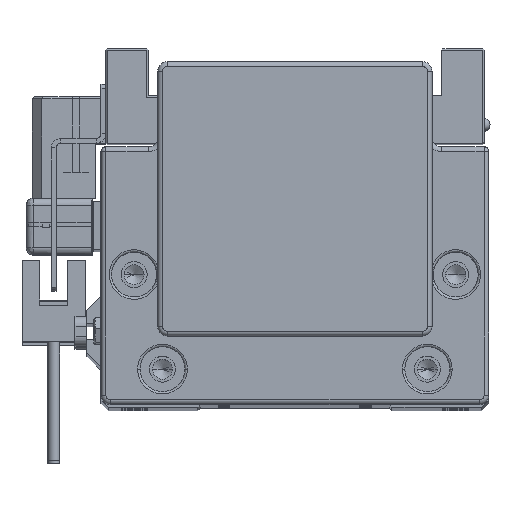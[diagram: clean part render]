
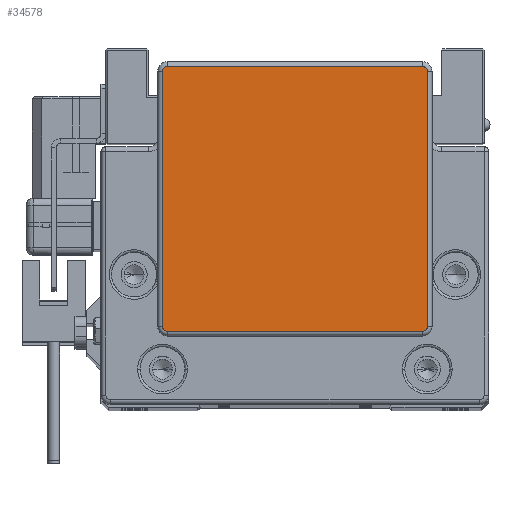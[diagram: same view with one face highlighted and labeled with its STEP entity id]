
A CAD part, top view. The second image highlights one B-rep face of the part: STEP entity #34578.
In plain terms, the highlighted planar face has unit normal (0, 0, 1).
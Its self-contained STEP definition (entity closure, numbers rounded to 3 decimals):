
#442 = DIRECTION ( 'NONE',  ( 0., 0., 1. ) ) ;
#677 = CARTESIAN_POINT ( 'NONE',  ( 27., 34.25, 17. ) ) ;
#1487 = VECTOR ( 'NONE', #9141, 1000. ) ;
#2427 = VERTEX_POINT ( 'NONE', #45824 ) ;
#2790 = CARTESIAN_POINT ( 'NONE',  ( 28., 34.25, 17. ) ) ;
#3341 = DIRECTION ( 'NONE',  ( 0., 0., 1. ) ) ;
#3385 = ORIENTED_EDGE ( 'NONE', *, *, #45708, .T. ) ;
#3447 = ORIENTED_EDGE ( 'NONE', *, *, #4761, .T. ) ;
#4103 = AXIS2_PLACEMENT_3D ( 'NONE', #677, #442, #33195 ) ;
#4761 = EDGE_CURVE ( 'NONE', #43453, #30639, #12379, .T. ) ;
#5309 = CARTESIAN_POINT ( 'NONE',  ( 27., -19.75, 17. ) ) ;
#6490 = CARTESIAN_POINT ( 'NONE',  ( 28., 34.25, 17. ) ) ;
#6519 = EDGE_CURVE ( 'NONE', #2427, #26488, #21567, .T. ) ;
#6788 = EDGE_LOOP ( 'NONE', ( #38233, #38056, #9147, #14247, #3385, #16406, #18810, #3447 ) ) ;
#7057 = VERTEX_POINT ( 'NONE', #35423 ) ;
#7211 = DIRECTION ( 'NONE',  ( 1., 0., 0. ) ) ;
#7368 = LINE ( 'NONE', #36145, #22143 ) ;
#7982 = CARTESIAN_POINT ( 'NONE',  ( -28., -19.75, 17. ) ) ;
#9141 = DIRECTION ( 'NONE',  ( 0., -1., 0. ) ) ;
#9147 = ORIENTED_EDGE ( 'NONE', *, *, #42140, .T. ) ;
#9565 = DIRECTION ( 'NONE',  ( 0., 1., 0. ) ) ;
#12047 = CARTESIAN_POINT ( 'NONE',  ( 27., -20.75, 17. ) ) ;
#12379 = CIRCLE ( 'NONE', #4103, 1. ) ;
#13020 = VERTEX_POINT ( 'NONE', #30434 ) ;
#13071 = CIRCLE ( 'NONE', #17597, 1. ) ;
#14190 = PLANE ( 'NONE',  #45431 ) ;
#14247 = ORIENTED_EDGE ( 'NONE', *, *, #18355, .T. ) ;
#15540 = LINE ( 'NONE', #16226, #1487 ) ;
#16155 = CARTESIAN_POINT ( 'NONE',  ( 27., 35.25, 17. ) ) ;
#16226 = CARTESIAN_POINT ( 'NONE',  ( -28., -19.75, 17. ) ) ;
#16406 = ORIENTED_EDGE ( 'NONE', *, *, #6519, .T. ) ;
#17026 = CARTESIAN_POINT ( 'NONE',  ( -27., -19.75, 17. ) ) ;
#17597 = AXIS2_PLACEMENT_3D ( 'NONE', #24572, #20307, #24098 ) ;
#18130 = CARTESIAN_POINT ( 'NONE',  ( 28., -19.75, 17. ) ) ;
#18355 = EDGE_CURVE ( 'NONE', #18752, #13020, #13071, .T. ) ;
#18752 = VERTEX_POINT ( 'NONE', #7982 ) ;
#18810 = ORIENTED_EDGE ( 'NONE', *, *, #38610, .T. ) ;
#19921 = DIRECTION ( 'NONE',  ( 1., 0., 0. ) ) ;
#20307 = DIRECTION ( 'NONE',  ( 0., 0., 1. ) ) ;
#21082 = EDGE_CURVE ( 'NONE', #30639, #40610, #7368, .T. ) ;
#21567 = CIRCLE ( 'NONE', #21596, 1. ) ;
#21596 = AXIS2_PLACEMENT_3D ( 'NONE', #5309, #27936, #19921 ) ;
#22143 = VECTOR ( 'NONE', #33071, 1000. ) ;
#22316 = DIRECTION ( 'NONE',  ( 0., 0., 1. ) ) ;
#22519 = CIRCLE ( 'NONE', #34550, 1. ) ;
#24098 = DIRECTION ( 'NONE',  ( 1., 0., 0. ) ) ;
#24572 = CARTESIAN_POINT ( 'NONE',  ( -27., -19.75, 17. ) ) ;
#26488 = VERTEX_POINT ( 'NONE', #18130 ) ;
#26660 = LINE ( 'NONE', #12047, #41507 ) ;
#27026 = EDGE_CURVE ( 'NONE', #40610, #7057, #22519, .T. ) ;
#27936 = DIRECTION ( 'NONE',  ( 0., 0., 1. ) ) ;
#28578 = DIRECTION ( 'NONE',  ( 1., 0., 0. ) ) ;
#29367 = CARTESIAN_POINT ( 'NONE',  ( -27., 34.25, 17. ) ) ;
#30434 = CARTESIAN_POINT ( 'NONE',  ( -27., -20.75, 17. ) ) ;
#30639 = VERTEX_POINT ( 'NONE', #16155 ) ;
#30909 = CARTESIAN_POINT ( 'NONE',  ( -27., 35.25, 17. ) ) ;
#31239 = LINE ( 'NONE', #6490, #36712 ) ;
#33071 = DIRECTION ( 'NONE',  ( -1., 0., 0. ) ) ;
#33195 = DIRECTION ( 'NONE',  ( 1., 0., 0. ) ) ;
#34550 = AXIS2_PLACEMENT_3D ( 'NONE', #29367, #22316, #7211 ) ;
#34578 = ADVANCED_FACE ( 'NONE', ( #35421 ), #14190, .T. ) ;
#35421 = FACE_OUTER_BOUND ( 'NONE', #6788, .T. ) ;
#35423 = CARTESIAN_POINT ( 'NONE',  ( -28., 34.25, 17. ) ) ;
#36145 = CARTESIAN_POINT ( 'NONE',  ( -27., 35.25, 17. ) ) ;
#36712 = VECTOR ( 'NONE', #9565, 1000. ) ;
#38056 = ORIENTED_EDGE ( 'NONE', *, *, #27026, .T. ) ;
#38233 = ORIENTED_EDGE ( 'NONE', *, *, #21082, .T. ) ;
#38610 = EDGE_CURVE ( 'NONE', #26488, #43453, #31239, .T. ) ;
#40610 = VERTEX_POINT ( 'NONE', #30909 ) ;
#41038 = DIRECTION ( 'NONE',  ( 1., 0., 0. ) ) ;
#41507 = VECTOR ( 'NONE', #41038, 1000. ) ;
#42140 = EDGE_CURVE ( 'NONE', #7057, #18752, #15540, .T. ) ;
#43453 = VERTEX_POINT ( 'NONE', #2790 ) ;
#45431 = AXIS2_PLACEMENT_3D ( 'NONE', #17026, #3341, #28578 ) ;
#45708 = EDGE_CURVE ( 'NONE', #13020, #2427, #26660, .T. ) ;
#45824 = CARTESIAN_POINT ( 'NONE',  ( 27., -20.75, 17. ) ) ;
